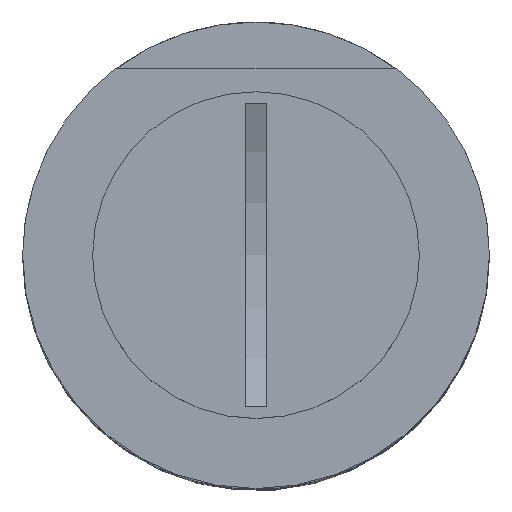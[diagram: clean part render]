
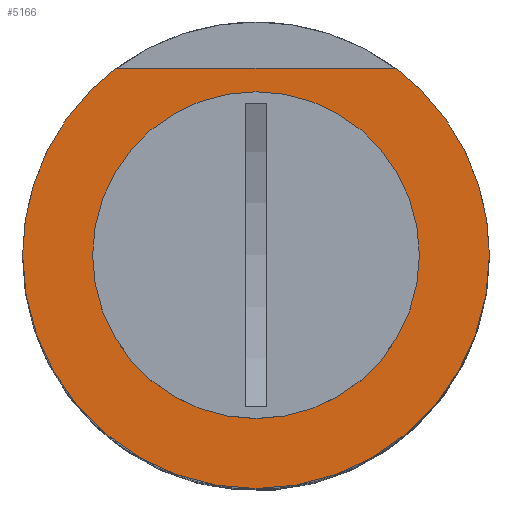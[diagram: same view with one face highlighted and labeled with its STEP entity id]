
A CAD part, top view. The second image highlights one B-rep face of the part: STEP entity #5166.
In plain terms, the highlighted planar face has unit normal (0, 0, 1).
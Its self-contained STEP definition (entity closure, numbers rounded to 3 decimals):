
#10 = DIRECTION ( 'NONE',  ( 1., 0., 0. ) ) ;
#682 = ORIENTED_EDGE ( 'NONE', *, *, #5196, .F. ) ;
#772 = EDGE_CURVE ( 'NONE', #2413, #2923, #10562, .T. ) ;
#1457 = CARTESIAN_POINT ( 'NONE',  ( -12., 16., 0. ) ) ;
#1693 = CARTESIAN_POINT ( 'NONE',  ( -20., 0., 0. ) ) ;
#1934 = ORIENTED_EDGE ( 'NONE', *, *, #9095, .F. ) ;
#2129 = AXIS2_PLACEMENT_3D ( 'NONE', #2421, #11106, #5103 ) ;
#2192 = ORIENTED_EDGE ( 'NONE', *, *, #5867, .F. ) ;
#2413 = VERTEX_POINT ( 'NONE', #1693 ) ;
#2421 = CARTESIAN_POINT ( 'NONE',  ( 0., 0., 0. ) ) ;
#2488 = DIRECTION ( 'NONE',  ( 0., 0., -1. ) ) ;
#2574 = FACE_OUTER_BOUND ( 'NONE', #5064, .T. ) ;
#2717 = DIRECTION ( 'NONE',  ( -1., 0., 0. ) ) ;
#2923 = VERTEX_POINT ( 'NONE', #1457 ) ;
#3050 = CIRCLE ( 'NONE', #2129, 12.25 ) ;
#3233 = AXIS2_PLACEMENT_3D ( 'NONE', #8340, #5705, #3998 ) ;
#3423 = EDGE_CURVE ( 'NONE', #2923, #8337, #5475, .T. ) ;
#3479 = CARTESIAN_POINT ( 'NONE',  ( 20., 0., 0. ) ) ;
#3606 = CARTESIAN_POINT ( 'NONE',  ( 0., 0., 0. ) ) ;
#3998 = DIRECTION ( 'NONE',  ( -1., 0., 0. ) ) ;
#4201 = CARTESIAN_POINT ( 'NONE',  ( 0., 0., 0. ) ) ;
#4338 = CARTESIAN_POINT ( 'NONE',  ( 0., 0., 0. ) ) ;
#4884 = EDGE_CURVE ( 'NONE', #7483, #2413, #7062, .T. ) ;
#5064 = EDGE_LOOP ( 'NONE', ( #8089, #5439, #10140, #1934 ) ) ;
#5103 = DIRECTION ( 'NONE',  ( 1., 0., 0. ) ) ;
#5166 = ADVANCED_FACE ( 'NONE', ( #10566, #2574 ), #8007, .T. ) ;
#5196 = EDGE_CURVE ( 'NONE', #9253, #7701, #9433, .T. ) ;
#5198 = DIRECTION ( 'NONE',  ( 0., 0., 1. ) ) ;
#5263 = AXIS2_PLACEMENT_3D ( 'NONE', #4201, #2488, #2717 ) ;
#5270 = DIRECTION ( 'NONE',  ( -1., 0., 0. ) ) ;
#5402 = CARTESIAN_POINT ( 'NONE',  ( 12., 16., 0. ) ) ;
#5439 = ORIENTED_EDGE ( 'NONE', *, *, #772, .F. ) ;
#5475 = LINE ( 'NONE', #10495, #10453 ) ;
#5705 = DIRECTION ( 'NONE',  ( 0., 0., -1. ) ) ;
#5867 = EDGE_CURVE ( 'NONE', #7701, #9253, #3050, .T. ) ;
#5958 = AXIS2_PLACEMENT_3D ( 'NONE', #3606, #8928, #10 ) ;
#6524 = CIRCLE ( 'NONE', #7960, 20. ) ;
#6697 = AXIS2_PLACEMENT_3D ( 'NONE', #4338, #5198, #8695 ) ;
#6979 = EDGE_LOOP ( 'NONE', ( #682, #2192 ) ) ;
#7062 = CIRCLE ( 'NONE', #3233, 20. ) ;
#7483 = VERTEX_POINT ( 'NONE', #3479 ) ;
#7701 = VERTEX_POINT ( 'NONE', #11019 ) ;
#7793 = DIRECTION ( 'NONE',  ( 0., 0., -1. ) ) ;
#7960 = AXIS2_PLACEMENT_3D ( 'NONE', #10526, #7793, #5270 ) ;
#8007 = PLANE ( 'NONE',  #6697 ) ;
#8089 = ORIENTED_EDGE ( 'NONE', *, *, #3423, .F. ) ;
#8337 = VERTEX_POINT ( 'NONE', #5402 ) ;
#8340 = CARTESIAN_POINT ( 'NONE',  ( 0., 0., 0. ) ) ;
#8695 = DIRECTION ( 'NONE',  ( 1., 0., 0. ) ) ;
#8854 = DIRECTION ( 'NONE',  ( 1., 0., 0. ) ) ;
#8928 = DIRECTION ( 'NONE',  ( 0., 0., 1. ) ) ;
#9095 = EDGE_CURVE ( 'NONE', #8337, #7483, #6524, .T. ) ;
#9253 = VERTEX_POINT ( 'NONE', #11023 ) ;
#9433 = CIRCLE ( 'NONE', #5958, 12.25 ) ;
#10140 = ORIENTED_EDGE ( 'NONE', *, *, #4884, .F. ) ;
#10453 = VECTOR ( 'NONE', #8854, 1000. ) ;
#10495 = CARTESIAN_POINT ( 'NONE',  ( -20., 16., 0. ) ) ;
#10526 = CARTESIAN_POINT ( 'NONE',  ( 0., 0., 0. ) ) ;
#10562 = CIRCLE ( 'NONE', #5263, 20. ) ;
#10566 = FACE_BOUND ( 'NONE', #6979, .T. ) ;
#11019 = CARTESIAN_POINT ( 'NONE',  ( -12.25, 0., 0. ) ) ;
#11023 = CARTESIAN_POINT ( 'NONE',  ( 12.25, 0., 0. ) ) ;
#11106 = DIRECTION ( 'NONE',  ( 0., 0., 1. ) ) ;
